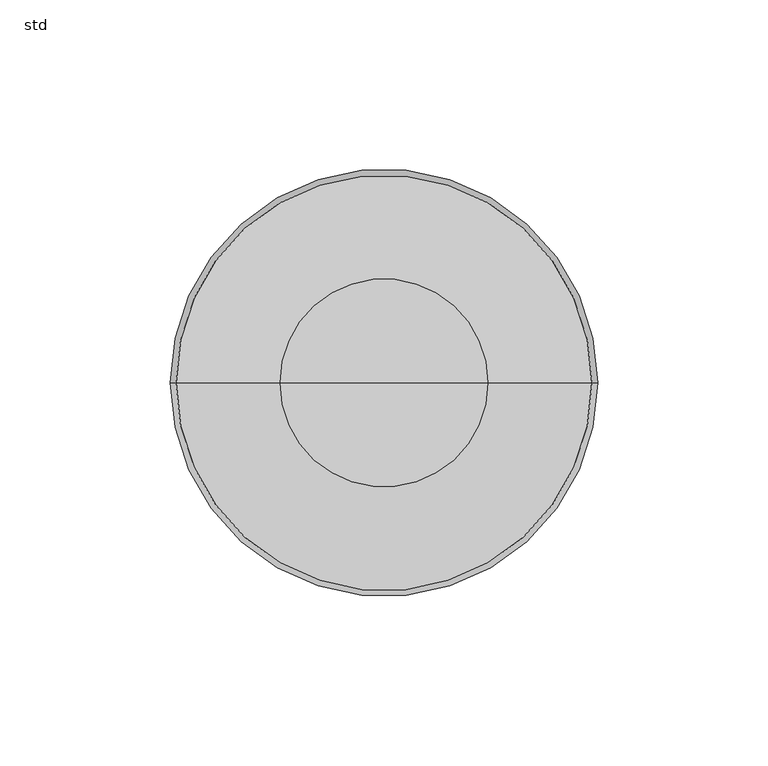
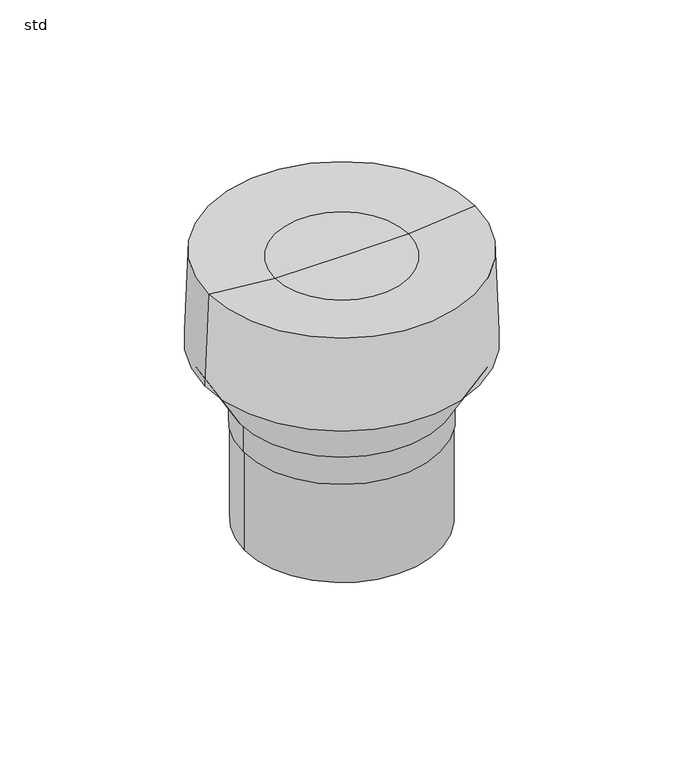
"""IFC4 building model written with IfcOpenShell, lengths in millimetres: valve geometry, Superdrain_Maxi-Vent -sh : std."""

import ifcopenshell
import ifcopenshell.guid

model = None  # the IFC model being written
_history = None  # IfcOwnerHistory: only IFC2X3 demands one
_inside = {}  # id of a spatial element -> (the spatial element, [elements in it])
_under = {}  # id of a project, library or spatial element -> (it, [spatial elements below it])
_declared = {}  # id of a project -> (the project, [libraries it declares])
_typed = {}  # id of a type object -> (the type object, [elements of that type])
_made_of = {}  # id of a material, layer set ... -> (it, [elements and type objects made of it])


def new_model(schema):
    """Start an empty IFC model of exactly this schema.

    Asked for "IFC4X3", IfcOpenShell would pick the latest addendum, in which some entities
    have other attributes; the version numbers below select the first issue.
    IFC2X3 requires an IfcOwnerHistory on every rooted entity: one is made here for all.
    """
    global model, _history
    if schema == "IFC4X3":
        model = ifcopenshell.file(schema_version=(4, 3, 0, 0))
    else:
        model = ifcopenshell.file(schema=schema)
    _inside.clear()
    _under.clear()
    _declared.clear()
    _typed.clear()
    _made_of.clear()
    _history = None
    if model.schema == "IFC2X3":
        org = make("IfcOrganization", Name="unknown")
        user = make(
            "IfcPersonAndOrganization",
            ThePerson=make("IfcPerson", FamilyName="unknown"),
            TheOrganization=org,
        )
        app = make(
            "IfcApplication",
            ApplicationDeveloper=org,
            Version="unknown",
            ApplicationFullName="unknown",
            ApplicationIdentifier="unknown",
        )
        _history = make(
            "IfcOwnerHistory",
            OwningUser=user,
            OwningApplication=app,
            ChangeAction="ADDED",
            CreationDate=0,
        )
    return model


def make(cls, **values):
    """One entity of the class cls with the attributes given. An attribute that is None is left unset."""
    return model.create_entity(
        cls, **{name: value for name, value in values.items() if value is not None}
    )


def rooted(cls, **values):
    """An entity with a GlobalId (a new one), such as an element, a storey or a relation."""
    return make(cls, GlobalId=ifcopenshell.guid.new(), OwnerHistory=_history, **values)


def si_unit(unit_type, name, prefix=None):
    """IfcSIUnit, for example si_unit("LENGTHUNIT", "METRE", prefix="MILLI")."""
    return make("IfcSIUnit", UnitType=unit_type, Prefix=prefix, Name=name)


def assignment(units):
    """IfcUnitAssignment: the units of a project."""
    return None if units is None else make("IfcUnitAssignment", Units=units)


def point(xyz):
    """IfcCartesianPoint."""
    return None if xyz is None else make("IfcCartesianPoint", Coordinates=xyz)


def direction(xyz):
    """IfcDirection."""
    return None if xyz is None else make("IfcDirection", DirectionRatios=xyz)


def frame(location, z_axis=None, x_axis=None):
    """IfcAxis2Placement3D, a coordinate frame: its origin and axes. An axis left out is left unset."""
    return make(
        "IfcAxis2Placement3D",
        Location=point(location),
        Axis=direction(z_axis),
        RefDirection=direction(x_axis),
    )


def origin():
    """The frame at (0, 0, 0) with its axes left unset."""
    return frame((0.0, 0.0, 0.0))


def origin_with_axes():
    """The frame at (0, 0, 0) with the z axis (0, 0, 1) and the x axis (1, 0, 0) written out."""
    return frame((0.0, 0.0, 0.0), z_axis=(0.0, 0.0, 1.0), x_axis=(1.0, 0.0, 0.0))


def place(relative_to, where):
    """IfcLocalPlacement: puts the frame where relative to a parent placement (None: the world)."""
    return make(
        "IfcLocalPlacement", PlacementRelTo=relative_to, RelativePlacement=where
    )


def context(
    kind, dimensions, precision=None, world=None, true_north=None, identifier=None
):
    """IfcGeometricRepresentationContext, for example the 3D "Model" context."""
    return make(
        "IfcGeometricRepresentationContext",
        ContextIdentifier=identifier,
        ContextType=kind,
        CoordinateSpaceDimension=dimensions,
        Precision=precision,
        WorldCoordinateSystem=world,
        TrueNorth=true_north,
    )


def project(units=None, contexts=None):
    """IfcProject with its units and contexts."""
    return rooted(
        "IfcProject",
        Name="project",
        RepresentationContexts=contexts,
        UnitsInContext=assignment(units),
    )


def spatial(cls, under=None, at=None, **own):
    """A site, building, storey or space (cls), placed at a placement, below another one or the project."""
    s = rooted(cls, ObjectPlacement=at, **own)
    if under is not None:
        _under.setdefault(under.id(), (under, []))[1].append(s)
    return s


def polyline(points):
    """IfcPolyline through the points."""
    return make("IfcPolyline", Points=[point(p) for p in points])


def circle_curve(where, radius):
    """IfcCircle in the frame where."""
    return make("IfcCircle", Position=where, Radius=radius)


def shape(context_of_items, identifier, shape_type, items):
    """IfcShapeRepresentation: the items that make up one representation, for example the "Body"."""
    return make(
        "IfcShapeRepresentation",
        ContextOfItems=context_of_items,
        RepresentationIdentifier=identifier,
        RepresentationType=shape_type,
        Items=items,
    )


def source(mapping_origin, context_of_items, identifier, shape_type, items):
    """IfcRepresentationMap: a shape defined once, which mapped items show again and again."""
    return make(
        "IfcRepresentationMap",
        MappingOrigin=mapping_origin,
        MappedRepresentation=shape(context_of_items, identifier, shape_type, items),
    )


def transform(
    local_origin,
    x_axis=None,
    y_axis=None,
    z_axis=None,
    scale=None,
    scale2=None,
    scale3=None,
    uniform=True,
):
    """IfcCartesianTransformationOperator3D, or its non-uniform kind. x_axis, y_axis, z_axis: its Axis1, 2, 3."""
    if uniform:
        return make(
            "IfcCartesianTransformationOperator3D",
            Axis1=direction(x_axis),
            Axis2=direction(y_axis),
            LocalOrigin=point(local_origin),
            Scale=scale,
            Axis3=direction(z_axis),
        )
    return make(
        "IfcCartesianTransformationOperator3DnonUniform",
        Axis1=direction(x_axis),
        Axis2=direction(y_axis),
        LocalOrigin=point(local_origin),
        Scale=scale,
        Axis3=direction(z_axis),
        Scale2=scale2,
        Scale3=scale3,
    )


def mapped(mapping_source, mapping_target):
    """IfcMappedItem: shows the shape of a source again, moved by a transform."""
    return make(
        "IfcMappedItem", MappingSource=mapping_source, MappingTarget=mapping_target
    )


def made_of(thing, what):
    """Note that an element or type object is made of a material, layer set ...; save() writes the relation."""
    if what is not None:
        _made_of.setdefault(what.id(), (what, []))[1].append(thing)
    return thing


def element(
    cls,
    number,
    at=None,
    inside=None,
    cuts=None,
    type_object=None,
    material=None,
    context=None,
    identifier="Body",
    shape_type=None,
    held_by="IfcProductDefinitionShape",
    body=None,
    shapes=None,
    **own,
):
    """One element of the class cls, such as IfcWall. Its Tag is "e" and its number.

    at: its placement. inside: the storey or other place that contains it. cuts: it is an
    opening in that element (IfcRelVoidsElement). A single representation is given by context,
    identifier, shape_type and body (its items); several are given by shapes. held_by: the class
    of the entity that holds the representations. save() writes the other relations.
    """
    e = rooted(cls, Tag="e%d" % number, ObjectPlacement=at, **own)
    if body is not None:
        shapes = [shape(context, identifier, shape_type, body)]
    if shapes is not None:
        e.Representation = make(held_by, Representations=shapes)
    if inside is not None:
        _inside.setdefault(inside.id(), (inside, []))[1].append(e)
    if cuts is not None:
        rooted(
            "IfcRelVoidsElement", RelatingBuildingElement=cuts, RelatedOpeningElement=e
        )
    if type_object is not None:
        _typed.setdefault(type_object.id(), (type_object, []))[1].append(e)
    return made_of(e, material)


def aggregate(whole, parts):
    """IfcRelAggregates: a whole, such as a stair, and the parts it consists of."""
    return rooted("IfcRelAggregates", RelatingObject=whole, RelatedObjects=parts)


def save(model, path):
    """Write the relations noted so far, then the file.

    IfcRelAggregates (storeys below a building ...), IfcRelContainedInSpatialStructure (elements
    in a storey), IfcRelDefinesByType, IfcRelAssociatesMaterial and IfcRelDeclares: one each for
    every whole, place, type object, material and project.
    """
    for whole, parts in _under.values():
        aggregate(whole, parts)
    for where, things in _inside.values():
        rooted(
            "IfcRelContainedInSpatialStructure",
            RelatedElements=things,
            RelatingStructure=where,
        )
    for kind, things in _typed.values():
        rooted("IfcRelDefinesByType", RelatedObjects=things, RelatingType=kind)
    for what, things in _made_of.values():
        rooted("IfcRelAssociatesMaterial", RelatedObjects=things, RelatingMaterial=what)
    for by, libraries in _declared.values():
        rooted("IfcRelDeclares", RelatingContext=by, RelatedDefinitions=libraries)
    model.write(path)


def plane_surface(at):
    """IfcPlane: the flat surface through the origin of the frame at, square to its z axis."""
    return make("IfcPlane", Position=at)


def cylinder_surface(at, radius):
    """IfcCylindricalSurface: all points at the distance radius from the z axis of the frame at."""
    return make("IfcCylindricalSurface", Position=at, Radius=radius)


def revolved_surface(curve, axis_point, axis_direction):
    """IfcSurfaceOfRevolution: the curve turned about the line through axis_point along axis_direction."""
    return make(
        "IfcSurfaceOfRevolution",
        SweptCurve=make("IfcArbitraryOpenProfileDef", ProfileType="CURVE", Curve=curve),
        AxisPosition=make("IfcAxis1Placement", Location=point(axis_point), Axis=direction(axis_direction)),
    )


def advanced_brep(points, edges, surfaces, faces):
    """IfcAdvancedBrep: a solid bounded by faces that lie on surfaces and meet in shared edges.

    An edge is (start, end): straight between two places in points (the first is 0);
    or (start, end, curve); or (start, end, curve, False) where it runs against its curve.
    A face is (place in surfaces, loops), or (place, loops, False) where it looks against
    its surface's normal. A loop lists edges by number (the first is 1), with a minus sign
    where the edge is run from its end to its start. The first loop is the outer one.
    """
    corners = [point(p) for p in points]
    vertices = [make("IfcVertexPoint", VertexGeometry=c) for c in corners]
    made = []
    for start, end, *more in edges:
        made.append(
            make(
                "IfcEdgeCurve",
                EdgeStart=vertices[start],
                EdgeEnd=vertices[end],
                EdgeGeometry=more[0] if more else make("IfcPolyline", Points=[corners[start], corners[end]]),
                SameSense=more[1] if len(more) > 1 else True,
            )
        )
    hull = []
    for where, loops, *sense in faces:
        bounds = []
        for j, loop in enumerate(loops):
            ring = [make("IfcOrientedEdge", EdgeElement=made[abs(k) - 1], Orientation=k > 0) for k in loop]
            bounds.append(
                make(
                    "IfcFaceOuterBound" if j == 0 else "IfcFaceBound",
                    Bound=make("IfcEdgeLoop", EdgeList=ring),
                    Orientation=True,
                )
            )
        hull.append(make("IfcAdvancedFace", Bounds=bounds, FaceSurface=surfaces[where], SameSense=sense[0] if sense else True))
    return make("IfcAdvancedBrep", Outer=make("IfcClosedShell", CfsFaces=hull))


def std_7a792acf(model_context):
    return source(origin(), model_context, "Body", "AdvancedBrep", [
        advanced_brep(
        [(-45.0, 0.0, 47.77), (45.0, 0.0, 47.77), (-44.5, 0.0, 47.77), (44.5, 0.0, 47.77), (42.5, 0.0, 47.77), (-42.5, 0.0, 47.77), (45.0, 0.0, 62.15), (-45.0, 0.0, 62.15), (-44.5, 0.0, 0.0), (44.5, 0.0, 0.0), (-42.5, 0.0, 0.0), (42.5, 0.0, 0.0), (62.6574122, 0.0, 85.9661124), (-62.6574122, 0.0, 85.9661124), (-60.970847, 0.0, 129.6668832), (60.970847, 0.0, 129.6668832), (-46.7606512, 0.0, 62.15), (46.7606512, 0.0, 62.15), (60.6574122, 0.0, 85.9661124), (-60.6574122, 0.0, 85.9661124), (30.4854235, 0.0, 126.6668832), (-30.4854235, 0.0, 126.6668832), (0.0, 0.0, 126.6668832)],
        [
            (0, 1, circle_curve(frame((0.0, 0.0, 47.77), z_axis=(0.0, 0.0, -1.0), x_axis=(1.0, 0.0, 0.0)), 45.0)),
            (1, 0, circle_curve(frame((0.0, 0.0, 47.77), z_axis=(0.0, 0.0, -1.0), x_axis=(1.0, 0.0, 0.0)), 45.0)),
            (2, 3, circle_curve(frame((0.0, 0.0, 47.77), z_axis=(0.0, 0.0, 1.0), x_axis=(1.0, 0.0, 0.0)), 44.5)),
            (3, 2, circle_curve(frame((0.0, 0.0, 47.77), z_axis=(0.0, 0.0, 1.0), x_axis=(1.0, 0.0, 0.0)), 44.5)),
            (4, 5, circle_curve(frame((0.0, 0.0, 47.77), z_axis=(0.0, 0.0, -1.0), x_axis=(1.0, 0.0, 0.0)), 42.5)),
            (5, 4, circle_curve(frame((0.0, 0.0, 47.77), z_axis=(0.0, 0.0, -1.0), x_axis=(1.0, 0.0, 0.0)), 42.5)),
            (1, 6),
            (6, 7, circle_curve(frame((0.0, 0.0, 62.15), z_axis=(0.0, 0.0, -1.0), x_axis=(1.0, 0.0, 0.0)), 45.0)),
            (7, 0),
            (7, 6, circle_curve(frame((0.0, 0.0, 62.15), z_axis=(0.0, 0.0, -1.0), x_axis=(1.0, 0.0, 0.0)), 45.0)),
            (8, 9, circle_curve(frame((0.0, 0.0, 0.0), z_axis=(0.0, 0.0, -1.0), x_axis=(1.0, 0.0, 0.0)), 44.5)),
            (9, 8, circle_curve(frame((0.0, 0.0, 0.0), z_axis=(0.0, 0.0, -1.0), x_axis=(1.0, 0.0, 0.0)), 44.5)),
            (10, 11, circle_curve(origin_with_axes(), 42.5)),
            (11, 10, circle_curve(origin_with_axes(), 42.5)),
            (9, 3),
            (2, 8),
            (10, 5),
            (4, 11),
            (12, 13, circle_curve(frame((0.0, 0.0, 85.9661124), z_axis=(0.0, 0.0, 1.0), x_axis=(-1.0, 0.0, 0.0)), 62.6574122)),
            (13, 14),
            (14, 15, circle_curve(frame((0.0, 0.0, 129.6668832), z_axis=(0.0, 0.0, -1.0), x_axis=(-1.0, 0.0, 0.0)), 60.970847)),
            (15, 12),
            (13, 12, circle_curve(frame((0.0, 0.0, 85.9661124), z_axis=(0.0, 0.0, 1.0), x_axis=(-1.0, 0.0, 0.0)), 62.6574122)),
            (15, 14, circle_curve(frame((0.0, 0.0, 129.6668832), z_axis=(0.0, 0.0, -1.0), x_axis=(-1.0, 0.0, 0.0)), 60.970847)),
            (16, 17, circle_curve(frame((0.0, 0.0, 62.15), z_axis=(0.0, 0.0, -1.0), x_axis=(-1.0, 0.0, 0.0)), 46.7606512)),
            (17, 6),
            (7, 16),
            (17, 16, circle_curve(frame((0.0, 0.0, 62.15), z_axis=(0.0, 0.0, -1.0), x_axis=(-1.0, 0.0, 0.0)), 46.7606512)),
            (12, 18),
            (18, 19, circle_curve(frame((0.0, 0.0, 85.9661124), z_axis=(0.0, 0.0, 1.0), x_axis=(-1.0, 0.0, 0.0)), 60.6574122)),
            (19, 13),
            (19, 18, circle_curve(frame((0.0, 0.0, 85.9661124), z_axis=(0.0, 0.0, 1.0), x_axis=(-1.0, 0.0, 0.0)), 60.6574122)),
            (16, 19),
            (18, 17),
            (20, 21, circle_curve(frame((0.0, 0.0, 126.6668832), z_axis=(0.0, 0.0, 1.0), x_axis=(-1.0, 0.0, 0.0)), 30.4854235)),
            (21, 22),
            (22, 20),
            (21, 20, circle_curve(frame((0.0, 0.0, 126.6668832), z_axis=(0.0, 0.0, 1.0), x_axis=(-1.0, 0.0, 0.0)), 30.4854235)),
            (14, 21),
            (20, 15),
        ],
        [
            plane_surface(frame((45.0, 0.0, 47.77), z_axis=(0.0, 0.0, -1.0), x_axis=(0.0, -1.0, 0.0))),
            cylinder_surface(frame((0.0, 0.0, 47.77), z_axis=(0.0, 0.0, 1.0), x_axis=(1.0, 0.0, 0.0)), 45.0),
            plane_surface(frame((44.5, 0.0, 0.0), z_axis=(0.0, 0.0, -1.0), x_axis=(0.0, -1.0, 0.0))),
            cylinder_surface(origin_with_axes(), 44.5),
            revolved_surface(polyline([(42.5, 0.0, 0.0), (42.5, 0.0, 47.77)]), (0.0, 0.0, 0.0), (0.0, 0.0, -1.0)),
            revolved_surface(polyline([(-60.970847, 0.0, 129.6668832), (-62.6574122, 0.0, 85.9661124)]), (0.0, 0.0, 68.8087367), (0.0, 0.0, -1.0)),
            plane_surface(frame((0.0, 0.0, 62.15), z_axis=(0.0, 0.0, -1.0), x_axis=(-1.0, 0.0, 0.0))),
            plane_surface(frame((0.0, 0.0, 85.9661124), z_axis=(0.0, 0.0, -1.0), x_axis=(-1.0, 0.0, 0.0))),
            revolved_surface(polyline([(-60.6574122, 0.0, 85.9661124), (-46.7606512, 0.0, 62.15)]), (0.0, 0.0, 68.8087367), (0.0, 0.0, -1.0)),
            plane_surface(frame((0.0, 0.0, 126.6668832), z_axis=(0.0, 0.0, 1.0), x_axis=(-1.0, 0.0, 0.0))),
            revolved_surface(polyline([(-30.4854235, 0.0, 126.6668832), (-60.970847, 0.0, 129.6668832)]), (0.0, 0.0, 68.8087367), (0.0, 0.0, -1.0)),
        ],
        [
            (0, [[1, 2], [3, 4]]),
            (0, [[5, 6]]),
            (1, [[-2, 7, 8, 9]]),
            (1, [[-1, -9, 10, -7]]),
            (2, [[11, 12], [13, 14]]),
            (3, [[-12, 15, -3, 16]]),
            (3, [[-11, -16, -4, -15]]),
            (4, [[-13, 17, -5, 18]]),
            (4, [[-14, -18, -6, -17]]),
            (5, [[19, 20, 21, 22]]),
            (5, [[-20, 23, -22, 24]]),
            (6, [[25, 26, -10, 27]]),
            (6, [[28, -27, -8, -26]]),
            (7, [[-19, 29, 30, 31]]),
            (7, [[-23, -31, 32, -29]]),
            (8, [[-25, 33, -30, 34]]),
            (8, [[-28, -34, -32, -33]]),
            (9, [[35, 36, 37]]),
            (9, [[-36, 38, -37]]),
            (10, [[-21, 39, -35, 40]]),
            (10, [[-24, -40, -38, -39]]),
        ],
    ),
    ])


if __name__ == "__main__":
    model = new_model("IFC4")
    model_context = context("Model", 3, world=origin())
    ifc_project = project(units=[si_unit("LENGTHUNIT", "METRE", prefix="MILLI")], contexts=[model_context])
    site = spatial("IfcSite", under=ifc_project)
    building = spatial("IfcBuilding", under=site)
    placement = place(None, origin())
    std_shape = std_7a792acf(model_context)
    element("IfcValve", 1, ObjectType="Superdrain_Maxi-Vent -sh : std", at=placement, inside=building, context=model_context, shape_type="MappedRepresentation", body=[
        mapped(std_shape, transform((0.0, 0.0, 0.0), x_axis=(1.0, 0.0, 0.0), y_axis=(0.0, 1.0, 0.0), z_axis=(0.0, 0.0, 1.0))),
    ])
    save(model, "model.ifc")
